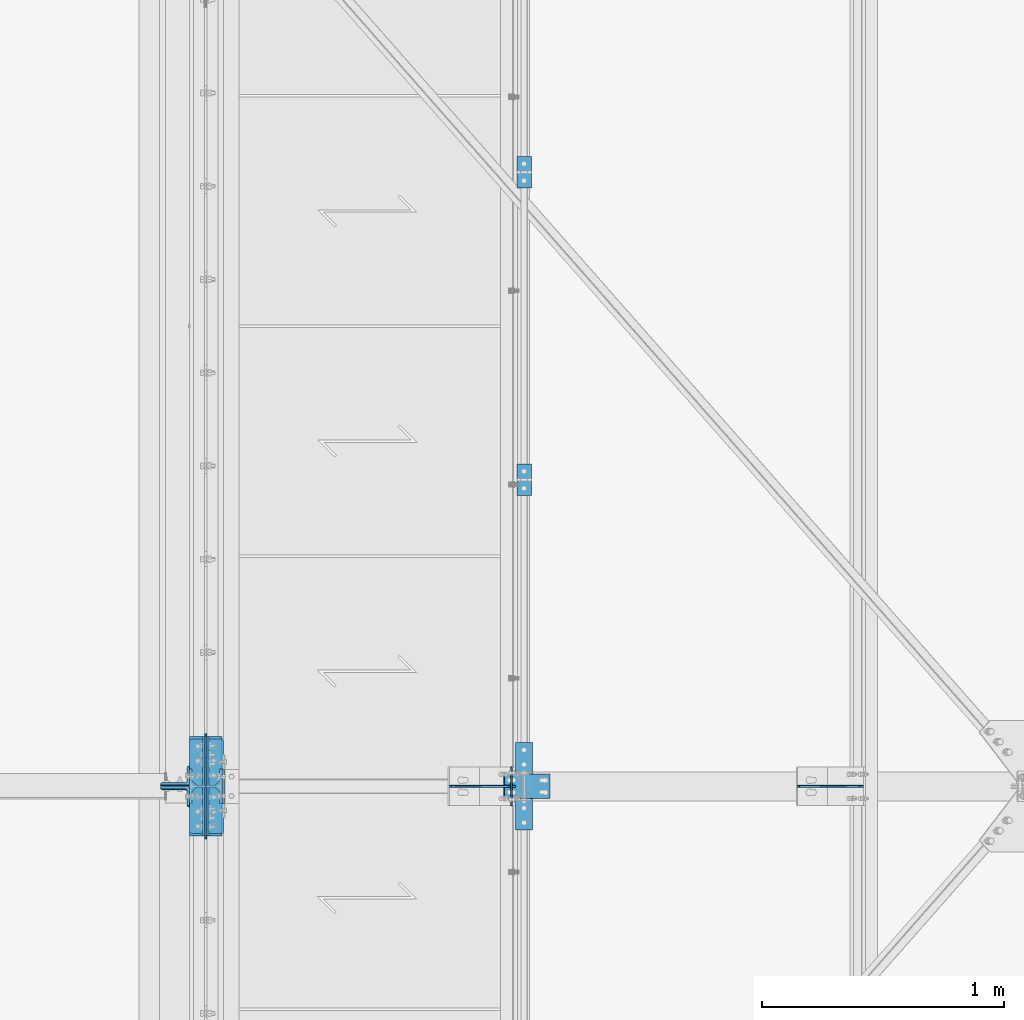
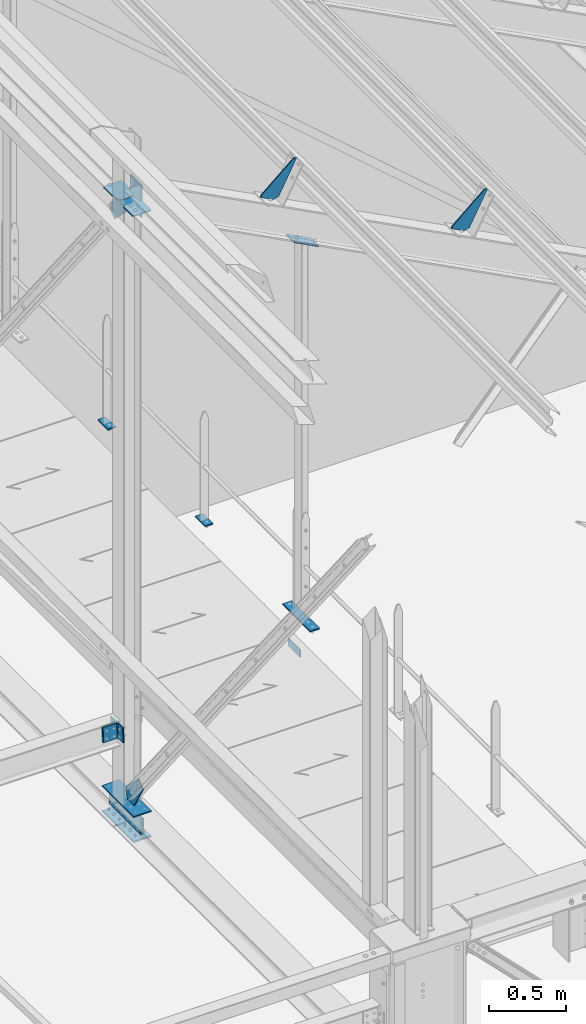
# One storey, part 71 of 362: 15 beams, 3 members, 12 elements without a shape of their own.
"""IFC2X3 building model written with IfcOpenShell, lengths in millimetres."""

from ifc_helpers import new_model, si_unit, frame, frame_2d, origin_with_axes, origin_2d_with_axis, place, context, subcontext, project, spatial, polyline, circle_curve, parameter, trimmed, segment, composite_curve, rectangle, l_section, outline, extrude, material, type_object, element, aggregate, save


model = new_model("IFC2X3")

# Units and contexts
model_context = context("Model", 3, precision=1e-05, world=origin_with_axes())
body_context = subcontext(model_context, "Body", "Model", "MODEL_VIEW")
ifc_project = project(units=[si_unit("LENGTHUNIT", "METRE", prefix="MILLI"), si_unit("AREAUNIT", "SQUARE_METRE"), si_unit("VOLUMEUNIT", "CUBIC_METRE"), si_unit("MASSUNIT", "GRAM", prefix="KILO"), si_unit("TIMEUNIT", "SECOND"), si_unit("PLANEANGLEUNIT", "RADIAN"), si_unit("SOLIDANGLEUNIT", "STERADIAN"), si_unit("THERMODYNAMICTEMPERATUREUNIT", "DEGREE_CELSIUS"), si_unit("LUMINOUSINTENSITYUNIT", "LUMEN")], contexts=[model_context])

# Site, building, storey
site_placement = place(None, origin_with_axes())
site = spatial("IfcSite", under=ifc_project, at=site_placement, Name="Undefined", CompositionType="ELEMENT")
building_placement = place(site_placement, origin_with_axes())
building = spatial("IfcBuilding", under=site, at=building_placement, Name="Undefined", CompositionType="ELEMENT")
storey_placement = place(building_placement, origin_with_axes())
storey = spatial("IfcBuildingStorey", under=building, at=storey_placement, Name="Undefined", CompositionType="ELEMENT", Elevation=0.0)

# Assembly, beams
assembly_1_placement = place(storey_placement, origin_with_axes())
assembly_1 = element("IfcElementAssembly", 1, at=assembly_1_placement, inside=storey, Name="MAIN COURANTE", AssemblyPlace="NOTDEFINED", PredefinedType="NOTDEFINED")
ifc_material = material(Name="Undefined/S235-E24")
beam_type_1 = type_object("IfcBeamType", Name="PL10*60", PredefinedType="NOTDEFINED")
beam_1_placement = place(assembly_1_placement, frame((13993.9998863, 5130.00344717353, 8245.00000549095), z_axis=(-1.0, 0.0, 0.0), x_axis=(0.0, -1.0, 0.0)))
beam_1 = element("IfcBeam", 2, at=beam_1_placement, type_object=beam_type_1, material=ifc_material, Name="PLATINE", ObjectType="PL10*60", context=body_context, shape_type="SweptSolid", body=[
    extrude(rectangle(XDim=10.0, YDim=60.0, at=origin_2d_with_axis()), frame((130.0, 0.0, 0.0), z_axis=(-1.0, 0.0, 0.0), x_axis=(0.0, -1.0, 0.0)), (0.0, 0.0, 1.0), 130.0),
])
beam_2_placement = place(assembly_1_placement, frame((13993.9998873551, 6400.00344717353, 8245.00000462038), z_axis=(-1.0, 0.0, 0.0), x_axis=(0.0, -1.0, 0.0)))
beam_2 = element("IfcBeam", 3, at=beam_2_placement, type_object=beam_type_1, material=ifc_material, Name="PLATINE", ObjectType="PL10*60", context=body_context, shape_type="SweptSolid", body=[
    extrude(rectangle(XDim=10.0, YDim=60.0, at=origin_2d_with_axis()), frame((130.0, 0.0, 0.0), z_axis=(-1.0, 0.0, 0.0), x_axis=(0.0, -1.0, 0.0)), (0.0, 0.0, 1.0), 130.0),
])
aggregate(assembly_1, [beam_1, beam_2])

# Assembly, beam
assembly_2_placement = place(storey_placement, origin_with_axes())
assembly_2 = element("IfcElementAssembly", 4, at=assembly_2_placement, inside=storey, Name="PANNE SHED", AssemblyPlace="NOTDEFINED", PredefinedType="NOTDEFINED")
beam_type_2 = type_object("IfcBeamType", Name="TOLE8*140", PredefinedType="NOTDEFINED")
beam_3_placement = place(assembly_2_placement, frame((15395.0613651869, 3800.0, 11158.7378432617), z_axis=(0.0, -1.0, 0.0), x_axis=(-0.886081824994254, 0.0, 0.463528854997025)))
beam_3 = element("IfcBeam", 5, at=beam_3_placement, type_object=beam_type_2, material=ifc_material, Name="RAIDISSEUR", ObjectType="TOLE8*140", context=body_context, shape_type="SweptSolid", body=[
    extrude(outline(polyline([(0.0, 0.0), (19.9999999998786, -3.63797880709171e-12), (140.000030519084, 299.999999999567), (140.000030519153, 319.999999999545), (30.0000147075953, 319.999999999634), (0.0, 290.0), (0.0, 0.0)])), frame((0.0, 0.0, -4.0), z_axis=(0.0, 0.0, 1.0), x_axis=(1.0, 0.0, 0.0)), (0.0, 0.0, 1.0), 8.0),
])
aggregate(assembly_2, [beam_3])

assembly_3_placement = place(storey_placement, origin_with_axes())
assembly_3 = element("IfcElementAssembly", 6, at=assembly_3_placement, inside=storey, Name="PANNE SHED", AssemblyPlace="NOTDEFINED", PredefinedType="NOTDEFINED")
beam_4_placement = place(assembly_3_placement, frame((13957.7613225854, 3800.0, 11910.6201334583), z_axis=(0.0, -1.0, 0.0), x_axis=(-0.886081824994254, 0.0, 0.463528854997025)))
beam_4 = element("IfcBeam", 7, at=beam_4_placement, type_object=beam_type_2, material=ifc_material, Name="RAIDISSEUR", ObjectType="TOLE8*140", context=body_context, shape_type="SweptSolid", body=[
    extrude(outline(polyline([(0.0, 0.0), (19.9999999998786, -3.63797880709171e-12), (140.000030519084, 299.999999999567), (140.000030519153, 319.999999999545), (30.0000147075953, 319.999999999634), (0.0, 290.0), (0.0, 0.0)])), frame((0.0, 0.0, -4.0), z_axis=(0.0, 0.0, 1.0), x_axis=(1.0, 0.0, 0.0)), (0.0, 0.0, 1.0), 8.0),
])
aggregate(assembly_3, [beam_4])

assembly_4_placement = place(storey_placement, origin_with_axes())
assembly_4 = element("IfcElementAssembly", 8, at=assembly_4_placement, inside=storey, AssemblyPlace="NOTDEFINED", PredefinedType="NOTDEFINED")
beam_type_3 = type_object("IfcBeamType", Name="PL10*133", PredefinedType="NOTDEFINED")
beam_5_placement = place(assembly_4_placement, frame((12680.0, 4005.00000000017, 7055.00000000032), z_axis=(1.0, 0.0, 0.0), x_axis=(0.0, -1.0, 0.0)))
beam_5 = element("IfcBeam", 9, at=beam_5_placement, type_object=beam_type_3, material=ifc_material, Name="ECLISSE", ObjectType="PL10*133", context=body_context, shape_type="SweptSolid", body=[
    extrude(rectangle(XDim=10.0, YDim=133.0, at=origin_2d_with_axis()), frame((410.0, 0.0, 0.0), z_axis=(-1.0, 0.0, 0.0), x_axis=(0.0, -1.0, 0.0)), (0.0, 0.0, 1.0), 410.0),
])
aggregate(assembly_4, [beam_5])

assembly_5_placement = place(storey_placement, origin_with_axes())
assembly_5 = element("IfcElementAssembly", 10, at=assembly_5_placement, inside=storey, Name="MONTANT", AssemblyPlace="NOTDEFINED", PredefinedType="NOTDEFINED")
beam_6_placement = place(assembly_5_placement, frame((12680.0, 4005.00000000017, 7255.00000000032), z_axis=(1.0, 0.0, 0.0), x_axis=(0.0, -1.0, 0.0)))
beam_6 = element("IfcBeam", 11, at=beam_6_placement, type_object=beam_type_3, material=ifc_material, Name="PLATINE", ObjectType="PL10*133", context=body_context, shape_type="SweptSolid", body=[
    extrude(rectangle(XDim=10.0, YDim=133.0, at=origin_2d_with_axis()), frame((410.0, 0.0, 0.0), z_axis=(-1.0, 0.0, 0.0), x_axis=(0.0, -1.0, 0.0)), (0.0, 0.0, 1.0), 410.0),
])

# Assembly, member
assembly_6_placement = place(storey_placement, origin_with_axes())
assembly_6 = element("IfcElementAssembly", 12, at=assembly_6_placement, inside=storey, AssemblyPlace="NOTDEFINED", PredefinedType="NOTDEFINED")
member_type_1 = type_object("IfcMemberType", Name="PL10*100", PredefinedType="NOTDEFINED")
member_1_placement = place(assembly_6_placement, frame((13911.9348604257, 3800.00000001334, 11285.668922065), z_axis=(0.0, -1.0, 0.0), x_axis=(0.886081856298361, 3.500000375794e-08, -0.463528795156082)))
member_1 = element("IfcMember", 13, at=member_1_placement, type_object=member_type_1, material=ifc_material, Name="PLATINE", ObjectType="PL10*100", context=body_context, shape_type="SweptSolid", body=[
    extrude(rectangle(XDim=10.0, YDim=100.0, at=origin_2d_with_axis()), frame((210.000000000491, 0.0, 1.81898940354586e-12), z_axis=(-1.0, 0.0, 0.0), x_axis=(0.0, -1.0, 0.0)), (0.0, 0.0, 1.0), 210.0),
])

# Assembly, beam
assembly_7_placement = place(storey_placement, origin_with_axes())
assembly_7 = element("IfcElementAssembly", 14, at=assembly_7_placement, inside=storey, AssemblyPlace="NOTDEFINED", PredefinedType="NOTDEFINED")
beam_type_4 = type_object("IfcBeamType", Name="TOLE6*60", PredefinedType="NOTDEFINED")
beam_7_placement = place(assembly_7_placement, frame((13942.9998855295, 3720.0, 7985.0), z_axis=(-1.0, 0.0, 0.0), x_axis=(0.0, 0.0, 1.0)))
beam_7 = element("IfcBeam", 15, at=beam_7_placement, type_object=beam_type_4, material=ifc_material, Name="PLATINE", ObjectType="TOLE6*60", context=body_context, shape_type="SweptSolid", body=[
    extrude(outline(polyline([(0.0, 0.0), (60.0, 0.0), (60.0, 159.999984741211), (0.0, 159.999984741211), (0.0, 0.0)])), frame((0.0, 0.0, -3.0), z_axis=(0.0, 0.0, 1.0), x_axis=(1.0, 0.0, 0.0)), (0.0, 0.0, 1.0), 6.0),
])
aggregate(assembly_7, [beam_7])

# Beam
beam_type_5 = type_object("IfcBeamType", Name="PL10*70", PredefinedType="NOTDEFINED")
beam_8_placement = place(assembly_6_placement, frame((13993.9998855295, 3980.00010616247, 8245.00000367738), z_axis=(1.0, 0.0, 0.0), x_axis=(0.0, -1.0, 0.0)))
beam_8 = element("IfcBeam", 16, at=beam_8_placement, type_object=beam_type_5, material=ifc_material, Name="PLATINE", ObjectType="PL10*70", context=body_context, shape_type="SweptSolid", body=[
    extrude(rectangle(XDim=10.0, YDim=70.0, at=origin_2d_with_axis()), frame((360.000000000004, 0.0, 0.0), z_axis=(-1.0, 0.0, 0.0), x_axis=(0.0, -1.0, 0.0)), (0.0, 0.0, 1.0), 360.0),
])

aggregate(assembly_6, [member_1, beam_8])

# Assembly, beam
assembly_8_placement = place(storey_placement, origin_with_axes())
assembly_8 = element("IfcElementAssembly", 17, at=assembly_8_placement, inside=storey, Name="TRAVERSE SHED", AssemblyPlace="NOTDEFINED", PredefinedType="NOTDEFINED")
beam_type_6 = type_object("IfcBeamType", Name="PL10*140", PredefinedType="NOTDEFINED")
beam_9_placement = place(assembly_8_placement, frame((12751.5, 3800.0, 12161.0697488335), z_axis=(0.0, -1.0, 0.0), x_axis=(0.0, 0.0, -1.0)))
beam_9 = element("IfcBeam", 18, at=beam_9_placement, type_object=beam_type_6, material=ifc_material, Name="PLATINE", ObjectType="PL10*140", context=body_context, shape_type="SweptSolid", body=[
    extrude(rectangle(XDim=10.0, YDim=140.0, at=origin_2d_with_axis()), frame((259.795359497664, 0.0, 0.0), z_axis=(-1.0, 0.0, 0.0), x_axis=(0.0, -1.0, 0.0)), (0.0, 0.0, 1.0), 259.8),
])
aggregate(assembly_8, [beam_9])

# Assembly, member
assembly_9_placement = place(storey_placement, origin_with_axes())
assembly_9 = element("IfcElementAssembly", 19, at=assembly_9_placement, inside=storey, AssemblyPlace="NOTDEFINED", PredefinedType="NOTDEFINED")
member_type_2 = type_object("IfcMemberType", Name="L120*80*10", PredefinedType="NOTDEFINED")
member_2_placement = place(assembly_9_placement, frame((12553.5000000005, 3844.86993295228, 7889.15200695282), z_axis=(-1.0, 0.0, 0.0), x_axis=(-1.05403257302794e-09, -0.0314112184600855, -0.999506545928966)))
member_2 = element("IfcMember", 20, at=member_2_placement, type_object=member_type_2, material=ifc_material, Name="ATTACHE", ObjectType="L120*80*10", context=body_context, shape_type="SweptSolid", body=[
    extrude(l_section(Depth=120.0, Width=80.0, Thickness=10.0, FilletRadius=11.0, EdgeRadius=5.5, at=origin_2d_with_axis()), frame((120.0, 0.0, 0.0), z_axis=(-1.0, 0.0, 0.0), x_axis=(0.0, -1.0, 0.0)), (0.0, 0.0, 1.0), 120.0),
])
aggregate(assembly_9, [member_2])

assembly_10_placement = place(storey_placement, origin_with_axes())
assembly_10 = element("IfcElementAssembly", 21, at=assembly_10_placement, inside=storey, AssemblyPlace="NOTDEFINED", PredefinedType="NOTDEFINED")
member_3_placement = place(assembly_10_placement, frame((12553.5000000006, 3755.14216197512, 7771.91261327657), z_axis=(-1.0, 0.0, 0.0), x_axis=(7.58071938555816e-11, 0.0314107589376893, 0.999506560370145)))
member_3 = element("IfcMember", 22, at=member_3_placement, type_object=member_type_2, material=ifc_material, Name="ATTACHE", ObjectType="L120*80*10", context=body_context, shape_type="SweptSolid", body=[
    extrude(l_section(Depth=120.0, Width=80.0, Thickness=10.0, FilletRadius=11.0, EdgeRadius=5.5, at=origin_2d_with_axis()), frame((120.0, 0.0, 0.0), z_axis=(-1.0, 0.0, 0.0), x_axis=(0.0, -1.0, 0.0)), (0.0, 0.0, 1.0), 120.0),
])
aggregate(assembly_10, [member_3])

# Beam
beam_type_7 = type_object("IfcBeamType", Name="TOLE8*135", PredefinedType="NOTDEFINED")
beam_10_placement = place(assembly_5_placement, frame((12680.0, 3797.25, 7260.0), z_axis=(-1.0, 0.0, 0.0), x_axis=(0.0, -1.0, 0.0)))
beam_10 = element("IfcBeam", 23, at=beam_10_placement, type_object=beam_type_7, material=ifc_material, Name="GOUSSET", ObjectType="TOLE8*135", context=body_context, shape_type="SweptSolid", body=[
    extrude(outline(polyline([(1.47401806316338e-08, 20.0000000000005), (19.9999999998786, -3.63797880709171e-12), (97.25, 0.0), (215.100128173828, 200.098342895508), (152.442047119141, 249.837310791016), (0.0, 100.0), (1.47401806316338e-08, 20.0000000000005)])), frame((0.0, 0.0, -4.0), z_axis=(0.0, 0.0, 1.0), x_axis=(1.0, 0.0, 0.0)), (0.0, 0.0, 1.0), 8.0),
])

beam_type_8 = type_object("IfcBeamType", Name="TOLE10*192", PredefinedType="NOTDEFINED")
beam_11_placement = place(assembly_5_placement, frame((12613.5, 3604.99692211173, 12032.0), z_axis=(0.0, 0.0, -1.0), x_axis=(0.0, 1.0, 0.0)))
beam_11 = element("IfcBeam", 24, at=beam_11_placement, type_object=beam_type_8, material=ifc_material, Name="PLAT", ObjectType="TOLE10*192", context=body_context, shape_type="SweptSolid", body=[
    extrude(outline(composite_curve([segment(trimmed(circle_curve(frame_2d((10.0, 10.0), x_axis=(-1.0, 0.0)), 10.0), [parameter(0.0)], [parameter(1.5707963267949)], True, "PARAMETER"), True, "CONTINUOUS"), segment(polyline([(9.99999999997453, 6.91215973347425e-11), (124.5, 0.0), (124.5, 9.0), (172.25, 9.0), (192.25, 29.0), (192.25, 104.0), (172.25, 124.0), (124.0, 124.0), (124.0, 140.0), (10.0, 140.0)]), True, "CONTINUOUS"), segment(trimmed(circle_curve(frame_2d((10.0, 130.0), x_axis=(0.0, 1.0)), 10.0), [parameter(0.0)], [parameter(1.5707963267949)], True, "PARAMETER"), True, "CONTINUOUS"), segment(polyline([(0.0, 130.0), (-1.81898940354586e-10, 10.0000000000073)]), True, "CONTINUOUS")], self_intersect=True)), frame((0.0, 0.0, -5.0), z_axis=(0.0, 0.0, 1.0), x_axis=(1.0, 0.0, 0.0)), (0.0, 0.0, 1.0), 10.0),
])

beam_12_placement = place(assembly_5_placement, frame((12613.5, 3995.0, 12032.0), z_axis=(0.0, 0.0, 1.0), x_axis=(0.0, -1.0, 0.0)))
beam_12 = element("IfcBeam", 25, at=beam_12_placement, type_object=beam_type_8, material=ifc_material, Name="PLAT", ObjectType="TOLE10*192", context=body_context, shape_type="SweptSolid", body=[
    extrude(outline(composite_curve([segment(trimmed(circle_curve(frame_2d((10.0, 10.0), x_axis=(-1.0, 0.0)), 10.0), [parameter(0.0)], [parameter(1.5707963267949)], True, "PARAMETER"), True, "CONTINUOUS"), segment(polyline([(9.99999999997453, 6.91215973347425e-11), (124.5, 0.0), (124.5, 9.0), (172.25, 9.0), (192.25, 29.0), (192.25, 104.0), (172.25, 124.0), (124.0, 124.0), (124.0, 140.0), (10.0, 140.0)]), True, "CONTINUOUS"), segment(trimmed(circle_curve(frame_2d((10.0, 130.0), x_axis=(0.0, 1.0)), 10.0), [parameter(0.0)], [parameter(1.5707963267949)], True, "PARAMETER"), True, "CONTINUOUS"), segment(polyline([(0.0, 130.0), (-1.81898940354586e-10, 10.0000000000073)]), True, "CONTINUOUS")], self_intersect=True)), frame((0.0, 0.0, -5.0), z_axis=(0.0, 0.0, 1.0), x_axis=(1.0, 0.0, 0.0)), (0.0, 0.0, 1.0), 10.0),
])

# Assembly, beam
assembly_11_placement = place(storey_placement, origin_with_axes())
assembly_11 = element("IfcElementAssembly", 26, at=assembly_11_placement, inside=storey, AssemblyPlace="NOTDEFINED", PredefinedType="NOTDEFINED")
beam_type_9 = type_object("IfcBeamType", Name="PL10*120", PredefinedType="NOTDEFINED")
beam_13_placement = place(assembly_11_placement, frame((12688.5, 4005.00000000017, 7155.00000000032), z_axis=(0.0, 0.0, -1.0), x_axis=(0.0, -1.0, 0.0)))
beam_13 = element("IfcBeam", 27, at=beam_13_placement, type_object=beam_type_9, material=ifc_material, Name="ECLISSE", ObjectType="PL10*120", context=body_context, shape_type="SweptSolid", body=[
    extrude(rectangle(XDim=10.0, YDim=120.0, at=origin_2d_with_axis()), frame((410.0, 0.0, 0.0), z_axis=(-1.0, 0.0, 0.0), x_axis=(0.0, -1.0, 0.0)), (0.0, 0.0, 1.0), 410.0),
])
aggregate(assembly_11, [beam_13])

assembly_12_placement = place(storey_placement, origin_with_axes())
assembly_12 = element("IfcElementAssembly", 28, at=assembly_12_placement, inside=storey, AssemblyPlace="NOTDEFINED", PredefinedType="NOTDEFINED")
beam_14_placement = place(assembly_12_placement, frame((12671.5, 4005.00000000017, 7155.00000000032), z_axis=(0.0, 0.0, -1.0), x_axis=(0.0, -1.0, 0.0)))
beam_14 = element("IfcBeam", 29, at=beam_14_placement, type_object=beam_type_9, material=ifc_material, Name="ECLISSE", ObjectType="PL10*120", context=body_context, shape_type="SweptSolid", body=[
    extrude(rectangle(XDim=10.0, YDim=120.0, at=origin_2d_with_axis()), frame((410.0, 0.0, 0.0), z_axis=(-1.0, 0.0, 0.0), x_axis=(0.0, -1.0, 0.0)), (0.0, 0.0, 1.0), 410.0),
])
aggregate(assembly_12, [beam_14])

# Beam
beam_type_10 = type_object("IfcBeamType", Name="TOLE8*250", PredefinedType="NOTDEFINED")
beam_15_placement = place(assembly_5_placement, frame((12680.0, 3802.75, 12027.0), z_axis=(-1.0, 0.0, 0.0), x_axis=(0.0, 1.0, 0.0)))
beam_15 = element("IfcBeam", 30, at=beam_15_placement, type_object=beam_type_10, material=ifc_material, Name="GOUSSET", ObjectType="TOLE8*250", context=body_context, shape_type="SweptSolid", body=[
    extrude(outline(polyline([(1.47401806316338e-08, 20.0000000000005), (19.9999999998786, -3.63797880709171e-12), (117.25, 0.0), (215.100280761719, 200.098205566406), (152.442230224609, 249.837203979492), (0.0, 100.0), (1.47401806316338e-08, 20.0000000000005)])), frame((0.0, 0.0, -4.0), z_axis=(0.0, 0.0, 1.0), x_axis=(1.0, 0.0, 0.0)), (0.0, 0.0, 1.0), 8.0),
])

aggregate(assembly_5, [beam_15, beam_10, beam_6, beam_11, beam_12])

save(model, "model.ifc")
